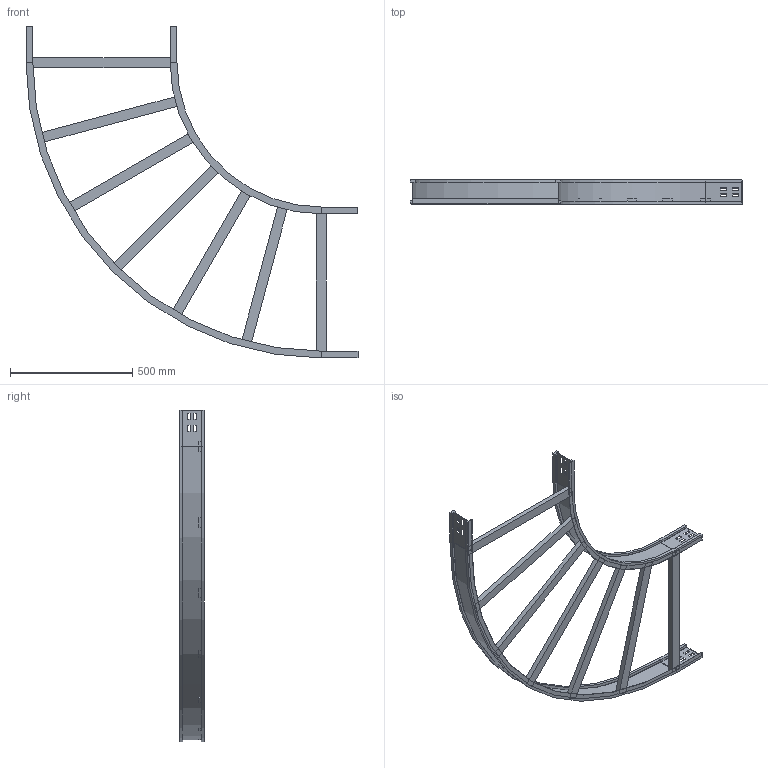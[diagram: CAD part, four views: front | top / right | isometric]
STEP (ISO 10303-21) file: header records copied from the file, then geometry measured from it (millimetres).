
FILE_DESCRIPTION (( 'STEP AP214' ), '1' );
FILE_NAME ('10S6D600.step', '2025-02-21T16:09:39', ( '' ), ( '' ), 'SwSTEP 2.0', 'SolidWorks 2023', '' );
FILE_SCHEMA (( 'AUTOMOTIVE_DESIGN' ));
Length unit declared in the file: millimetre
Products named in the file (4): 10S6D600; TRAVERSINO_600; LONGH.ESTERNO 90°_H100_R600+600; LONGH.INTERNO 90°_H100_R600
Assembly tree (9 placements, depth 2):
  10S6D600
    LONGH.INTERNO 90°_H100_R600
    LONGH.ESTERNO 90°_H100_R600+600
    TRAVERSINO_600  x7
Bounding box: 1359 x 100 x 1359 mm (x, y, z)
Volume: 5196986.6 mm3; surface area: 1531499.7 mm2
Topology: 9 solids, 9 shells, 182 faces, 444 edges, 280 vertices
Faces by surface type: plane 170, cylinder 12
Entity records: 4509 total; most frequent: CARTESIAN_POINT 762, ORIENTED_EDGE 744, DIRECTION 712, EDGE_CURVE 372, LINE 348, VECTOR 348, VERTEX_POINT 232, AXIS2_PLACEMENT_3D 182
